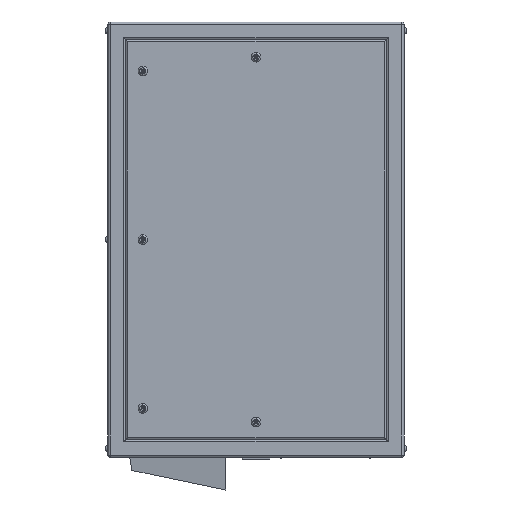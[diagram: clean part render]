
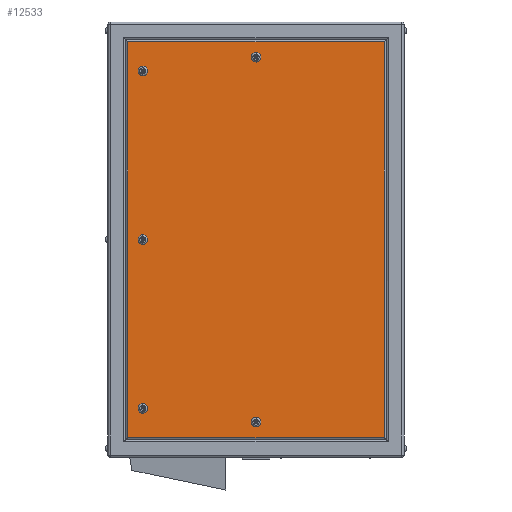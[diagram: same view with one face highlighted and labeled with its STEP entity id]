
A CAD part, left-side view. The second image highlights one B-rep face of the part: STEP entity #12533.
In plain terms, the highlighted planar face has unit normal (-1, 0, 0).
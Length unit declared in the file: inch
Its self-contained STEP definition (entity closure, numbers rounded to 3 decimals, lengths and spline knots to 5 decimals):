
#82 = AXIS2_PLACEMENT_3D ( 'NONE', #1051, #19298, #10419 ) ;
#214 = VERTEX_POINT ( 'NONE', #8493 ) ;
#296 = CARTESIAN_POINT ( 'NONE',  ( -10., 13., -19.375 ) ) ;
#302 = VERTEX_POINT ( 'NONE', #19458 ) ;
#407 = EDGE_CURVE ( 'NONE', #6264, #3848, #18498, .T. ) ;
#517 = VECTOR ( 'NONE', #9738, 39.37008 ) ;
#695 = ORIENTED_EDGE ( 'NONE', *, *, #9604, .T. ) ;
#716 = EDGE_CURVE ( 'NONE', #3848, #6264, #5689, .T. ) ;
#729 = CARTESIAN_POINT ( 'NONE',  ( -10., 0., -21.5 ) ) ;
#832 = CIRCLE ( 'NONE', #13600, 0.55 ) ;
#888 = VERTEX_POINT ( 'NONE', #6252 ) ;
#899 = ORIENTED_EDGE ( 'NONE', *, *, #22612, .T. ) ;
#960 = DIRECTION ( 'NONE',  ( 0., 0., -1. ) ) ;
#1051 = CARTESIAN_POINT ( 'NONE',  ( -10., 13., 19.375 ) ) ;
#1148 = AXIS2_PLACEMENT_3D ( 'NONE', #1571, #16271, #12507 ) ;
#1571 = CARTESIAN_POINT ( 'NONE',  ( -10., 13., -19.375 ) ) ;
#1596 = EDGE_CURVE ( 'NONE', #17185, #21324, #5743, .T. ) ;
#1611 = CARTESIAN_POINT ( 'NONE',  ( -10., 17., -25. ) ) ;
#2468 = CARTESIAN_POINT ( 'NONE',  ( -10., 17., -22.74 ) ) ;
#2677 = ORIENTED_EDGE ( 'NONE', *, *, #11604, .T. ) ;
#2972 = AXIS2_PLACEMENT_3D ( 'NONE', #20967, #9750, #4795 ) ;
#3200 = VERTEX_POINT ( 'NONE', #20471 ) ;
#3848 = VERTEX_POINT ( 'NONE', #17390 ) ;
#4370 = DIRECTION ( 'NONE',  ( 1., 0., 0. ) ) ;
#4460 = CARTESIAN_POINT ( 'NONE',  ( -10., 0., 21.5 ) ) ;
#4651 = CARTESIAN_POINT ( 'NONE',  ( -10., 13., -0.55 ) ) ;
#4708 = VERTEX_POINT ( 'NONE', #16352 ) ;
#4795 = DIRECTION ( 'NONE',  ( 0., 0., -1. ) ) ;
#5095 = FACE_BOUND ( 'NONE', #18220, .T. ) ;
#5354 = CARTESIAN_POINT ( 'NONE',  ( -10., 17., 22.74 ) ) ;
#5689 = CIRCLE ( 'NONE', #16998, 0.55 ) ;
#5720 = DIRECTION ( 'NONE',  ( 1., 0., 0. ) ) ;
#5743 = CIRCLE ( 'NONE', #20839, 0.55 ) ;
#5848 = LINE ( 'NONE', #2468, #517 ) ;
#6038 = ORIENTED_EDGE ( 'NONE', *, *, #1596, .T. ) ;
#6058 = EDGE_LOOP ( 'NONE', ( #10947, #18255 ) ) ;
#6252 = CARTESIAN_POINT ( 'NONE',  ( -10., 14.74, 22.74 ) ) ;
#6264 = VERTEX_POINT ( 'NONE', #11289 ) ;
#6572 = ORIENTED_EDGE ( 'NONE', *, *, #21252, .T. ) ;
#6855 = FACE_BOUND ( 'NONE', #6058, .T. ) ;
#7273 = EDGE_LOOP ( 'NONE', ( #6038, #23225 ) ) ;
#7477 = CARTESIAN_POINT ( 'NONE',  ( -10., 0., -20.95 ) ) ;
#7707 = ORIENTED_EDGE ( 'NONE', *, *, #15101, .T. ) ;
#7932 = VERTEX_POINT ( 'NONE', #14489 ) ;
#7934 = ORIENTED_EDGE ( 'NONE', *, *, #15531, .T. ) ;
#8175 = FACE_BOUND ( 'NONE', #7273, .T. ) ;
#8198 = DIRECTION ( 'NONE',  ( 0., 0., 1. ) ) ;
#8311 = CARTESIAN_POINT ( 'NONE',  ( -10., -14.74, -25. ) ) ;
#8493 = CARTESIAN_POINT ( 'NONE',  ( -10., -14.74, 22.74 ) ) ;
#8650 = FACE_BOUND ( 'NONE', #9512, .T. ) ;
#8898 = DIRECTION ( 'NONE',  ( 0., 1., 0. ) ) ;
#9021 = DIRECTION ( 'NONE',  ( 0., 0., -1. ) ) ;
#9143 = DIRECTION ( 'NONE',  ( 0., 0., 1. ) ) ;
#9512 = EDGE_LOOP ( 'NONE', ( #695, #11959 ) ) ;
#9604 = EDGE_CURVE ( 'NONE', #21731, #11543, #15789, .T. ) ;
#9719 = CIRCLE ( 'NONE', #2972, 0.55 ) ;
#9738 = DIRECTION ( 'NONE',  ( 0., -1., 0. ) ) ;
#9741 = LINE ( 'NONE', #8311, #20025 ) ;
#9750 = DIRECTION ( 'NONE',  ( 1., 0., 0. ) ) ;
#9812 = VECTOR ( 'NONE', #8898, 39.37008 ) ;
#10165 = FACE_OUTER_BOUND ( 'NONE', #14195, .T. ) ;
#10309 = EDGE_CURVE ( 'NONE', #214, #888, #21305, .T. ) ;
#10419 = DIRECTION ( 'NONE',  ( 0., 0., -1. ) ) ;
#10555 = EDGE_CURVE ( 'NONE', #11543, #21731, #832, .T. ) ;
#10658 = DIRECTION ( 'NONE',  ( 1., 0., 0. ) ) ;
#10864 = CARTESIAN_POINT ( 'NONE',  ( -10., 14.74, -25. ) ) ;
#10916 = CARTESIAN_POINT ( 'NONE',  ( -10., 0., 20.4 ) ) ;
#10947 = ORIENTED_EDGE ( 'NONE', *, *, #716, .T. ) ;
#11289 = CARTESIAN_POINT ( 'NONE',  ( -10., 13., -18.825 ) ) ;
#11458 = DIRECTION ( 'NONE',  ( 1., 0., 0. ) ) ;
#11543 = VERTEX_POINT ( 'NONE', #4460 ) ;
#11604 = EDGE_CURVE ( 'NONE', #7932, #302, #16614, .T. ) ;
#11959 = ORIENTED_EDGE ( 'NONE', *, *, #10555, .T. ) ;
#12075 = AXIS2_PLACEMENT_3D ( 'NONE', #20439, #13603, #13378 ) ;
#12269 = ORIENTED_EDGE ( 'NONE', *, *, #10309, .T. ) ;
#12295 = EDGE_CURVE ( 'NONE', #21774, #4708, #20421, .T. ) ;
#12507 = DIRECTION ( 'NONE',  ( 0., 0., -1. ) ) ;
#12533 = ADVANCED_FACE ( 'NONE', ( #5095, #8650, #6855, #8175, #17268, #10165 ), #13856, .F. ) ;
#12536 = VECTOR ( 'NONE', #9021, 39.37008 ) ;
#12915 = CIRCLE ( 'NONE', #15910, 0.55 ) ;
#13304 = AXIS2_PLACEMENT_3D ( 'NONE', #1611, #19597, #20065 ) ;
#13378 = DIRECTION ( 'NONE',  ( 0., 0., 1. ) ) ;
#13600 = AXIS2_PLACEMENT_3D ( 'NONE', #20610, #4370, #960 ) ;
#13603 = DIRECTION ( 'NONE',  ( 1., 0., 0. ) ) ;
#13856 = PLANE ( 'NONE',  #13304 ) ;
#14195 = EDGE_LOOP ( 'NONE', ( #7934, #7707, #12269, #20064 ) ) ;
#14292 = CARTESIAN_POINT ( 'NONE',  ( -10., 13., 0.55 ) ) ;
#14489 = CARTESIAN_POINT ( 'NONE',  ( -10., 13., 19.925 ) ) ;
#14621 = VERTEX_POINT ( 'NONE', #22929 ) ;
#14805 = LINE ( 'NONE', #10864, #12536 ) ;
#15101 = EDGE_CURVE ( 'NONE', #3200, #214, #9741, .T. ) ;
#15504 = DIRECTION ( 'NONE',  ( 0., 0., -1. ) ) ;
#15531 = EDGE_CURVE ( 'NONE', #14621, #3200, #5848, .T. ) ;
#15789 = CIRCLE ( 'NONE', #21091, 0.55 ) ;
#15910 = AXIS2_PLACEMENT_3D ( 'NONE', #22137, #16910, #17031 ) ;
#16180 = DIRECTION ( 'NONE',  ( 0., 0., -1. ) ) ;
#16202 = CARTESIAN_POINT ( 'NONE',  ( -10., 13., 0. ) ) ;
#16271 = DIRECTION ( 'NONE',  ( 1., 0., 0. ) ) ;
#16352 = CARTESIAN_POINT ( 'NONE',  ( -10., 0., -20.4 ) ) ;
#16614 = CIRCLE ( 'NONE', #82, 0.55 ) ;
#16910 = DIRECTION ( 'NONE',  ( 1., 0., 0. ) ) ;
#16998 = AXIS2_PLACEMENT_3D ( 'NONE', #296, #20063, #16180 ) ;
#17031 = DIRECTION ( 'NONE',  ( 0., 0., -1. ) ) ;
#17185 = VERTEX_POINT ( 'NONE', #4651 ) ;
#17268 = FACE_BOUND ( 'NONE', #18095, .T. ) ;
#17380 = ORIENTED_EDGE ( 'NONE', *, *, #12295, .T. ) ;
#17390 = CARTESIAN_POINT ( 'NONE',  ( -10., 13., -19.925 ) ) ;
#18095 = EDGE_LOOP ( 'NONE', ( #899, #2677 ) ) ;
#18220 = EDGE_LOOP ( 'NONE', ( #17380, #6572 ) ) ;
#18255 = ORIENTED_EDGE ( 'NONE', *, *, #407, .T. ) ;
#18498 = CIRCLE ( 'NONE', #1148, 0.55 ) ;
#19298 = DIRECTION ( 'NONE',  ( 1., 0., 0. ) ) ;
#19458 = CARTESIAN_POINT ( 'NONE',  ( -10., 13., 18.825 ) ) ;
#19597 = DIRECTION ( 'NONE',  ( 1., 0., 0. ) ) ;
#20025 = VECTOR ( 'NONE', #8198, 39.37008 ) ;
#20063 = DIRECTION ( 'NONE',  ( 1., 0., 0. ) ) ;
#20064 = ORIENTED_EDGE ( 'NONE', *, *, #22452, .T. ) ;
#20065 = DIRECTION ( 'NONE',  ( 0., 0., -1. ) ) ;
#20421 = CIRCLE ( 'NONE', #21177, 0.55 ) ;
#20434 = EDGE_CURVE ( 'NONE', #21324, #17185, #9719, .T. ) ;
#20439 = CARTESIAN_POINT ( 'NONE',  ( -10., 0., -20.95 ) ) ;
#20471 = CARTESIAN_POINT ( 'NONE',  ( -10., -14.74, -22.74 ) ) ;
#20555 = DIRECTION ( 'NONE',  ( 0., 0., -1. ) ) ;
#20610 = CARTESIAN_POINT ( 'NONE',  ( -10., 0., 20.95 ) ) ;
#20839 = AXIS2_PLACEMENT_3D ( 'NONE', #16202, #11458, #20555 ) ;
#20967 = CARTESIAN_POINT ( 'NONE',  ( -10., 13., 0. ) ) ;
#21091 = AXIS2_PLACEMENT_3D ( 'NONE', #21909, #5720, #15504 ) ;
#21177 = AXIS2_PLACEMENT_3D ( 'NONE', #7477, #10658, #9143 ) ;
#21252 = EDGE_CURVE ( 'NONE', #4708, #21774, #23042, .T. ) ;
#21305 = LINE ( 'NONE', #5354, #9812 ) ;
#21324 = VERTEX_POINT ( 'NONE', #14292 ) ;
#21731 = VERTEX_POINT ( 'NONE', #10916 ) ;
#21774 = VERTEX_POINT ( 'NONE', #729 ) ;
#21909 = CARTESIAN_POINT ( 'NONE',  ( -10., 0., 20.95 ) ) ;
#22137 = CARTESIAN_POINT ( 'NONE',  ( -10., 13., 19.375 ) ) ;
#22452 = EDGE_CURVE ( 'NONE', #888, #14621, #14805, .T. ) ;
#22612 = EDGE_CURVE ( 'NONE', #302, #7932, #12915, .T. ) ;
#22929 = CARTESIAN_POINT ( 'NONE',  ( -10., 14.74, -22.74 ) ) ;
#23042 = CIRCLE ( 'NONE', #12075, 0.55 ) ;
#23225 = ORIENTED_EDGE ( 'NONE', *, *, #20434, .T. ) ;
